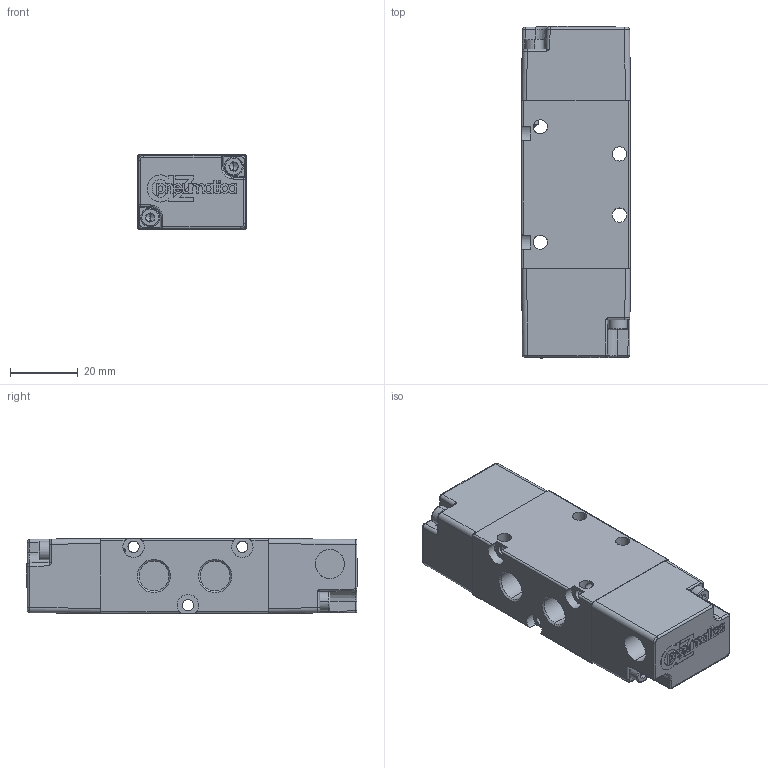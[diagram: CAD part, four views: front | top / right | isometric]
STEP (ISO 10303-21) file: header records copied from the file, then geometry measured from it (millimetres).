
FILE_DESCRIPTION (( 'STEP AP214' ), '1' );
FILE_NAME ('00_003_4.STEP', '2015-12-18T13:36:13', ( '' ), ( '' ), 'SwSTEP 2.0', 'SolidWorks 2015', '' );
FILE_SCHEMA (( 'AUTOMOTIVE_DESIGN' ));
Length unit declared in the file: millimetre
Products named in the file (1): 00_003_4
Bounding box: 32 x 97.69 x 22 mm (x, y, z)
Volume: 60388.9 mm3; surface area: 15891.7 mm2
Topology: 1 solids, 1 shells, 1108 faces, 3131 edges, 2033 vertices
Faces by surface type: plane 909, cylinder 102, bspline 56, cone 31, torus 6, sphere 4
Entity records: 58392 total; most frequent: CARTESIAN_POINT 17938, ORIENTED_EDGE 6216, DIRECTION 5284, EDGE_CURVE 3108, LINE 2730, VECTOR 2730, VERTEX_POINT 2033, AXIS2_PLACEMENT_3D 1277
